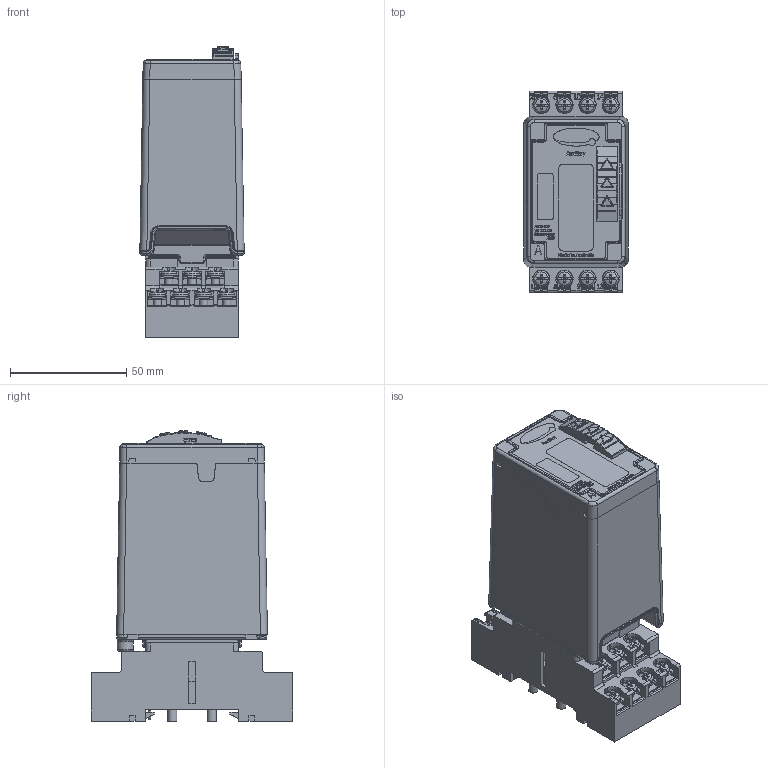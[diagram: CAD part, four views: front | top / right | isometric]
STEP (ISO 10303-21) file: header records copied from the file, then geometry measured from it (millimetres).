
FILE_DESCRIPTION(/* description */ (''),/* implementation_level */ '2;1');
FILE_NAME(/* name */ 'U:\M1 Attachments\CRs\CR1124 - Sales support\FU 153983 - 3D Model Step Files for Delta Enclosures\DIN Mount.stp',/* time_stamp */ '2023-06-27T16:49:45+10:00',/* author */ ('sarah.rady'),/* organization */ (''),/* preprocessor_version */ 'ST-DEVELOPER v19',/* originating_system */ 'Autodesk Inventor 2023',/* authorisation */ '');
FILE_SCHEMA (('AUTOMOTIVE_DESIGN { 1 0 10303 214 3 1 1 }'));
Products named in the file (1): Part5
Bounding box: 44.93 x 87 x 125.08 mm (x, y, z)
Volume: 314753.6 mm3; surface area: 58776.7 mm2
Topology: 2 solids, 18 shells, 4879 faces, 13329 edges, 8548 vertices
Faces by surface type: plane 3371, cylinder 657, bspline 576, cone 155, sphere 62, torus 58
Full cylindrical faces by diameter (mm): 1 x8, 3 x4, 3.175 x14, 3.5 x14, 4 x6
Entity records: 201735 total; most frequent: CARTESIAN_POINT 50001, ORIENTED_EDGE 26564, DIRECTION 22381, EDGE_CURVE 13295, LINE 9651, VECTOR 9651, VERTEX_POINT 8522, AXIS2_PLACEMENT_3D 6365
